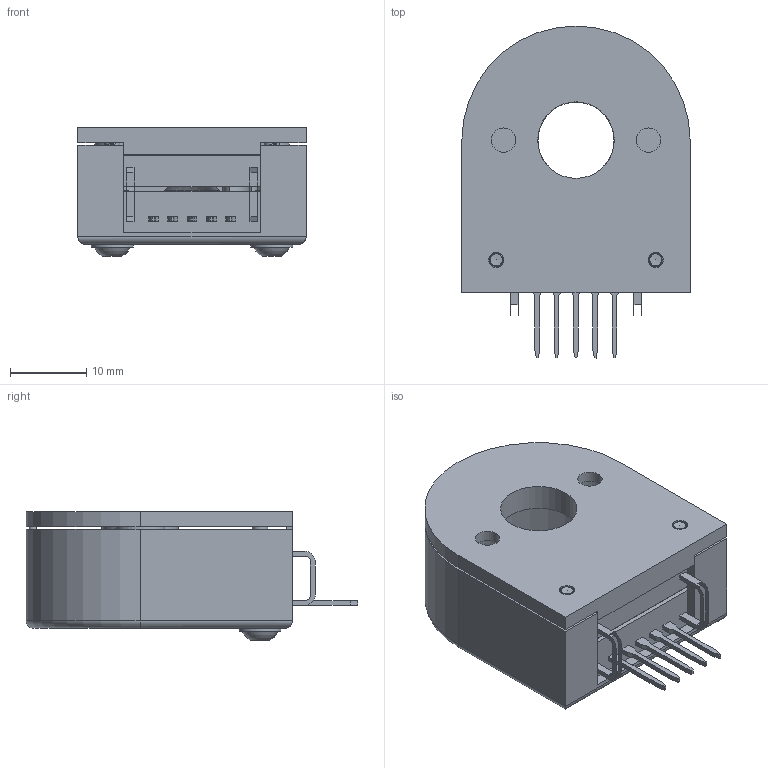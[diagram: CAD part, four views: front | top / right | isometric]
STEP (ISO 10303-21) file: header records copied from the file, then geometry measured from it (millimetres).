
FILE_DESCRIPTION (( 'STEP AP214' ), '1' );
FILE_NAME ('00.012.xx.ZSB.STEP', '2018-03-26T07:57:16', ( '' ), ( '' ), 'SwSTEP 2.0', 'SolidWorks 2017', '' );
FILE_SCHEMA (( 'AUTOMOTIVE_DESIGN' ));
Length unit declared in the file: millimetre
Products named in the file (2): 00.012.xx.ZSB
Bounding box: 30 x 43.62 x 16.95 mm (x, y, z)
Surface area: 6825.9 mm2 (no closed solid volume)
Topology: 0 solids, 10 shells, 222 faces, 1119 edges, 895 vertices
Faces by surface type: plane 117, cylinder 50, bspline 39, torus 7, cone 5, sphere 4
Full cylindrical faces by diameter (mm): 1 x1, 2 x2, 2.52 x2, 3.2 x2, 5.5 x2, 6 x2, 6.5 x2, 10 x1, 10.05 x1
Entity records: 21817 total; most frequent: CARTESIAN_POINT 11591, ORIENTED_EDGE 1513, DIRECTION 1271, EDGE_CURVE 1079, VERTEX_POINT 884, LINE 583, VECTOR 583, AXIS2_PLACEMENT_3D 344
